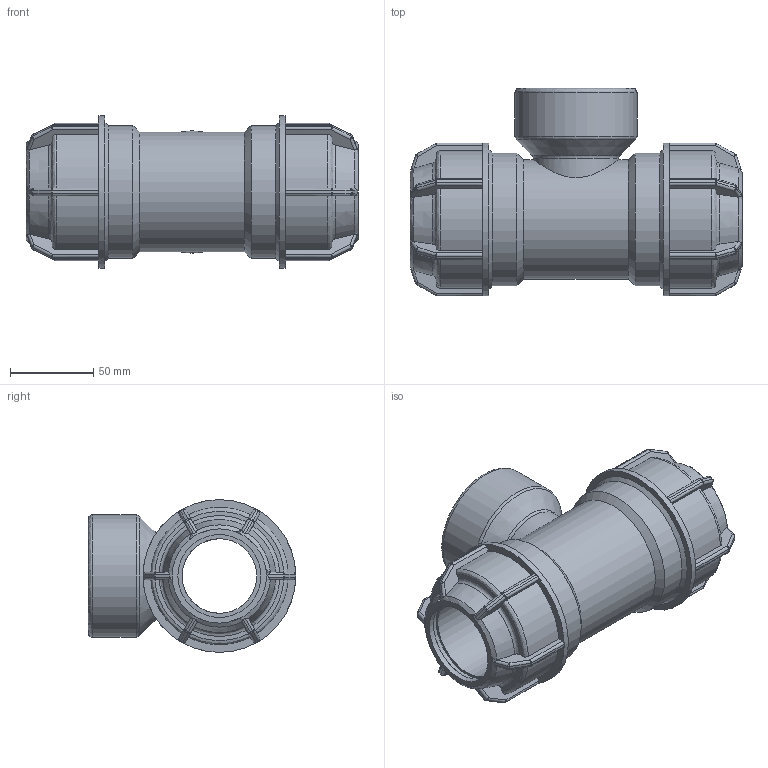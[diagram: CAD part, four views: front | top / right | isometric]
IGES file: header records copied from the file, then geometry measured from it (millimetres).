
Global section: file name: 141400050020.ipt; native system: Autodesk Inventor 2015; preprocessor: unknown; author: KIM; date: 20180416.111613; units: millimetre
Bounding box: 200 x 125 x 92 mm (x, y, z)
Volume: 608145.6 mm3; surface area: 114986.6 mm2
Topology: 1 solids, 1 shells, 413 faces, 1005 edges, 588 vertices
Faces by surface type: plane 195, cylinder 115, sphere 48, revolution 38, cone 17
Full cylindrical faces by diameter (mm): 51.557 x1, 72 x1, 73.653 x1, 80 x2, 92 x2
